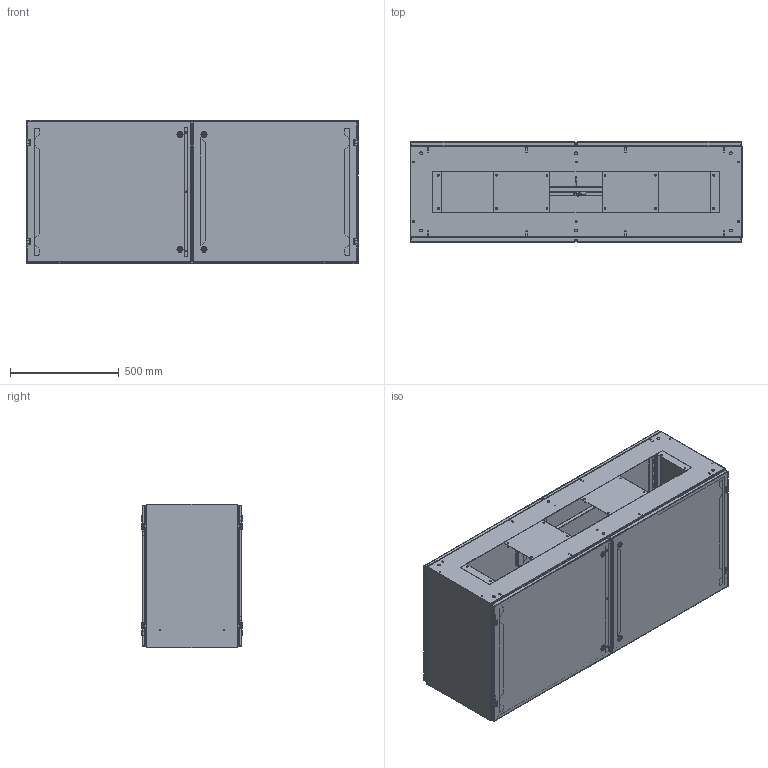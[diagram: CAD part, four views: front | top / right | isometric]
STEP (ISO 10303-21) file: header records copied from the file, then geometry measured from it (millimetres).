
FILE_DESCRIPTION( ( 'Unknown' ), '1' );
FILE_NAME( 'Q:/2000 SERIES/BASE UNITS/WEB DRAWINGS/STEP/2CSBX266018.stp', 'Unknown', ( 'Unknown' ), ( 'Unknown' ), 'XStep 1.0', 'Unknown', ' ' );
FILE_SCHEMA( ( 'CONFIG_CONTROL_DESIGN' ) );
Length unit declared in the file: millimetre
Products named in the file (54): Assem1; Assem2; Assem3; Assem4; Assem5; Assem6; Assem7; Assem8; Assem9; 1; 2; 3; 4; 5; 6; 7; 8; 9; 10; 11; 12; 13; 14; 15; 16; 17; 18; 19; 20; 21; 22; 23; 24; 25; 26; 27; 28; 29; 30; 31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
Bounding box: 1524 x 466.49 x 660.4 mm (x, y, z)
Volume: 22482302.7 mm3; surface area: 24722571.5 mm2
Topology: 239 solids, 239 shells, 5571 faces, 13349 edges, 8479 vertices
Faces by surface type: plane 3529, cylinder 1623, bspline 372, torus 27, cone 20
Full cylindrical faces by diameter (mm): 5 x20, 5.537 x18, 5.969 x10, 6 x10, 6.096 x10, 6.35 x135, 7.137 x232, 7.938 x131, 9.804 x9, 9.83 x20, 12.7 x20, 13.335 x10, 15.875 x10, 16.002 x10, 19.5 x10, 19.939 x10, 25.4 x10
Entity records: 39344 total; most frequent: CARTESIAN_POINT 10956, DIRECTION 5306, ORIENTED_EDGE 5096, EDGE_CURVE 2548, AXIS2_PLACEMENT_3D 1847, VERTEX_POINT 1673, LINE 1612, VECTOR 1612
